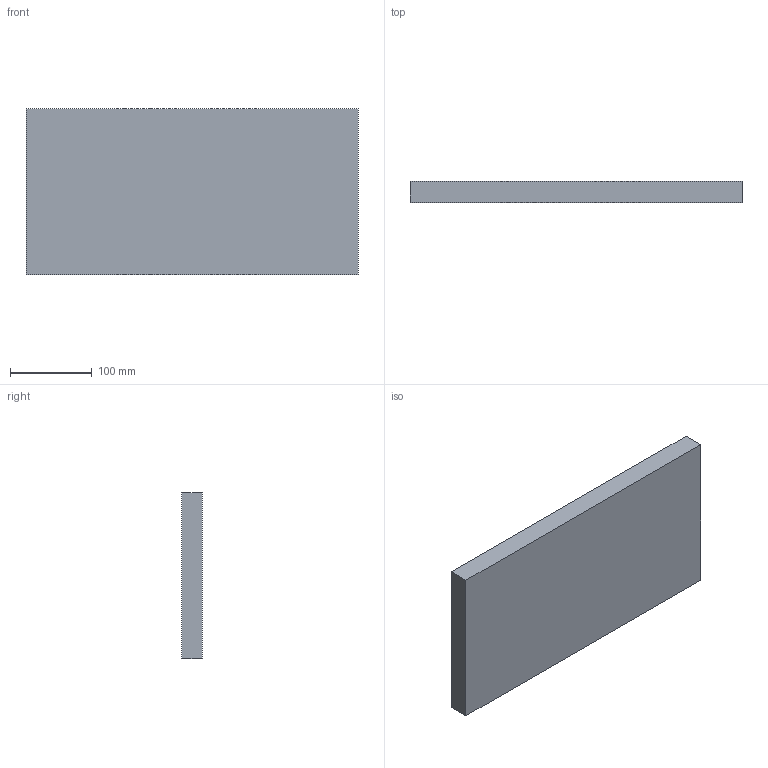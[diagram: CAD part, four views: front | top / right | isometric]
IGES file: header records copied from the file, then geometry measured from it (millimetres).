
Start section: SolidWorks IGES file using NURBS representation for surfaces
Global section: file name: C:\Users\rjehangir\Dropbox\BlueRobotics\BR-Engineering\Models\FLOAT-R1\FLOAT-16X8X1-R1.IGS; native system: SolidWorks 2012; preprocessor: SolidWorks 2012; author: rjehangir; date: 150608.151211; units: inch
Bounding box: 406.4 x 25.4 x 203.2 mm (x, y, z)
Surface area: 196128.6 mm2 (no closed solid volume)
Topology: 0 solids, 0 shells, 6 faces, 24 edges, 24 vertices
Faces by surface type: bspline 6
